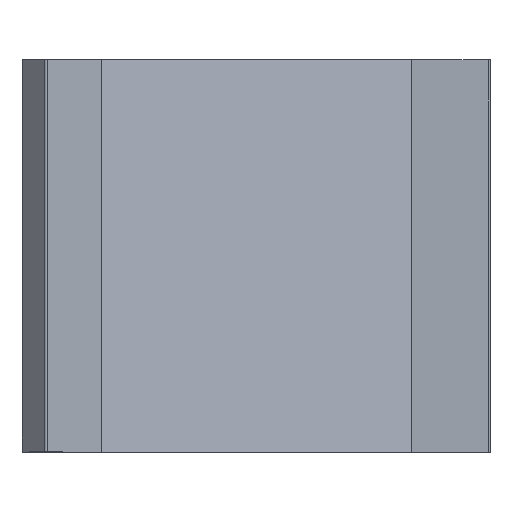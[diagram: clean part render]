
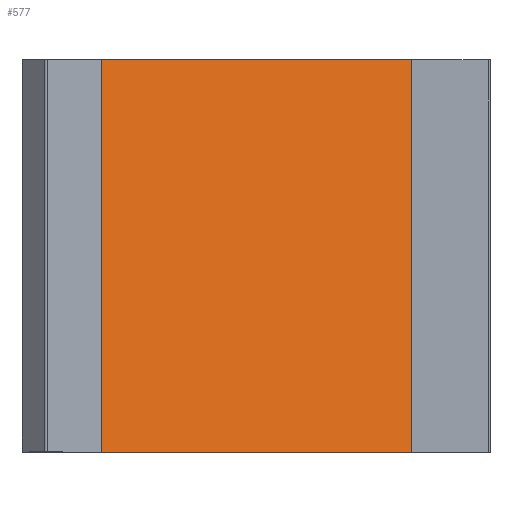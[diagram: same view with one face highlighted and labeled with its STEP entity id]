
A CAD part, top view. The second image highlights one B-rep face of the part: STEP entity #577.
In plain terms, the highlighted planar face has unit normal (0.383, 0, 0.924).
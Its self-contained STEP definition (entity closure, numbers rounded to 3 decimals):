
#144=ORIENTED_EDGE('',*,*,#299,.T.);
#145=ORIENTED_EDGE('',*,*,#298,.F.);
#146=ORIENTED_EDGE('',*,*,#300,.F.);
#147=ORIENTED_EDGE('',*,*,#301,.T.);
#298=EDGE_CURVE('',#369,#368,#420,.T.);
#299=EDGE_CURVE('',#370,#368,#421,.T.);
#300=EDGE_CURVE('',#371,#369,#422,.T.);
#301=EDGE_CURVE('',#371,#370,#423,.T.);
#368=VERTEX_POINT('',#970);
#369=VERTEX_POINT('',#972);
#370=VERTEX_POINT('',#976);
#371=VERTEX_POINT('',#978);
#420=LINE('',#973,#472);
#421=LINE('',#975,#473);
#422=LINE('',#977,#474);
#423=LINE('',#979,#475);
#472=VECTOR('',#783,1000.);
#473=VECTOR('',#786,1000.);
#474=VECTOR('',#787,1000.);
#475=VECTOR('',#788,1000.);
#499=EDGE_LOOP('',(#144,#145,#146,#147));
#531=FACE_BOUND('',#499,.T.);
#554=PLANE('',#638);
#577=ADVANCED_FACE('',(#531),#554,.F.);
#638=AXIS2_PLACEMENT_3D('',#974,#784,#785);
#783=DIRECTION('',(0.,1.,0.));
#784=DIRECTION('',(-0.383,0.,-0.924));
#785=DIRECTION('',(0.924,0.,-0.383));
#786=DIRECTION('',(-0.924,0.,0.383));
#787=DIRECTION('',(-0.924,0.,0.383));
#788=DIRECTION('',(0.,1.,0.));
#970=CARTESIAN_POINT('',(242.855,-1100.,46.178));
#972=CARTESIAN_POINT('',(242.855,-1200.,46.178));
#973=CARTESIAN_POINT('',(242.855,-1000.,46.178));
#974=CARTESIAN_POINT('',(321.662,-1000.,13.535));
#975=CARTESIAN_POINT('',(321.662,-1100.,13.535));
#976=CARTESIAN_POINT('',(321.662,-1100.,13.535));
#977=CARTESIAN_POINT('',(321.662,-1200.,13.535));
#978=CARTESIAN_POINT('',(321.662,-1200.,13.535));
#979=CARTESIAN_POINT('',(321.662,-1000.,13.535));
